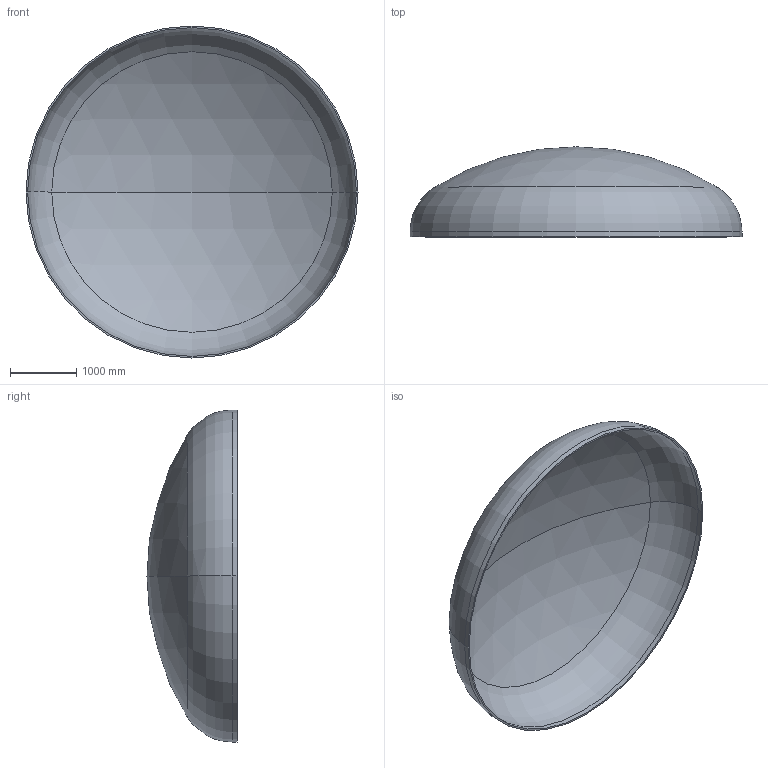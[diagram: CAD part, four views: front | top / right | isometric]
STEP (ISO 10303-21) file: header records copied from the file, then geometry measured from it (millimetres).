
FILE_DESCRIPTION (( 'STEP AP203' ), '1' );
FILE_NAME ('DIN 28013 Korbbogenform_-_Boden DIN 28013 - 5000 x 75 - I - s=24.step', '2016-07-02T00:14:50', ( '' ), ( '' ), 'SwSTEP 2.0', 'SolidWorks 2013', '' );
FILE_SCHEMA (( 'CONFIG_CONTROL_DESIGN' ));
Length unit declared in the file: millimetre
Products named in the file (1): DIN 28013 Korbbogenform_-_Boden DIN 28013 - 5000 x 75 - I - s=24
Bounding box: 5000 x 1356.29 x 5000 mm (x, y, z)
Volume: 676694055.7 mm3; surface area: 56767536.9 mm2
Topology: 1 solids, 1 shells, 13 faces, 24 edges, 14 vertices
Faces by surface type: torus 4, cylinder 4, sphere 4, plane 1
Entity records: 407 total; most frequent: DIRECTION 72, CARTESIAN_POINT 52, ORIENTED_EDGE 48, AXIS2_PLACEMENT_3D 34, EDGE_CURVE 24, CIRCLE 20, EDGE_LOOP 14, VERTEX_POINT 14
